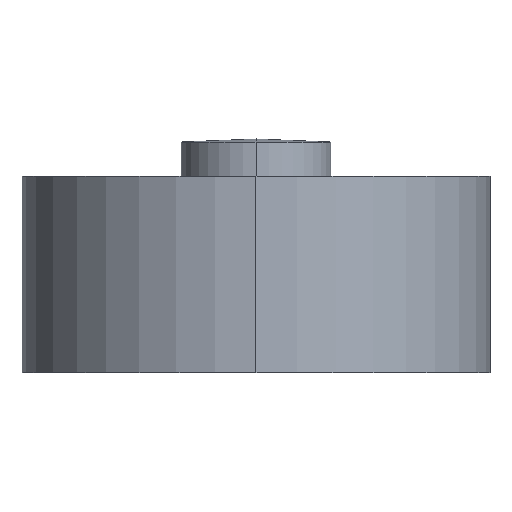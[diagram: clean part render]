
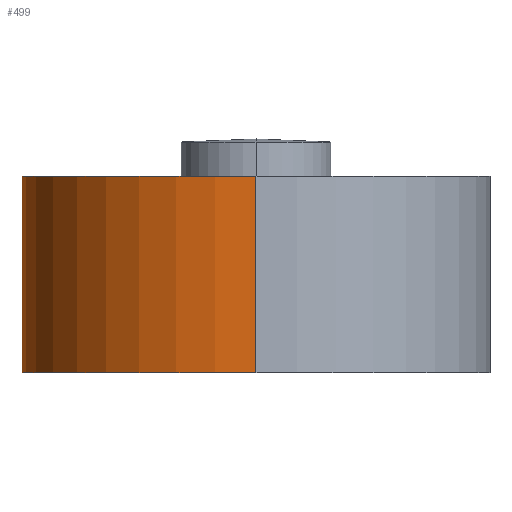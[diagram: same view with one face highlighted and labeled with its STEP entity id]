
A CAD part, left-side view. The second image highlights one B-rep face of the part: STEP entity #499.
In plain terms, the highlighted cylindrical face has radius 25 mm (diameter 50 mm), a partial arc.
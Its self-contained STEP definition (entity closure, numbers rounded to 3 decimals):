
#21 = CARTESIAN_POINT ( 'NONE',  ( -25., 0., -4. ) ) ;
#51 = LINE ( 'NONE', #510, #694 ) ;
#72 = AXIS2_PLACEMENT_3D ( 'NONE', #637, #718, #877 ) ;
#75 = EDGE_CURVE ( 'NONE', #487, #257, #849, .T. ) ;
#90 = CARTESIAN_POINT ( 'NONE',  ( 25., 0., -25. ) ) ;
#110 = CARTESIAN_POINT ( 'NONE',  ( 0., 0., -25. ) ) ;
#120 = AXIS2_PLACEMENT_3D ( 'NONE', #140, #682, #313 ) ;
#140 = CARTESIAN_POINT ( 'NONE',  ( 0., 0., -4. ) ) ;
#176 = ORIENTED_EDGE ( 'NONE', *, *, #621, .T. ) ;
#241 = VERTEX_POINT ( 'NONE', #589 ) ;
#251 = EDGE_CURVE ( 'NONE', #487, #241, #51, .T. ) ;
#257 = VERTEX_POINT ( 'NONE', #973 ) ;
#272 = DIRECTION ( 'NONE',  ( 0., 0., 1. ) ) ;
#291 = CARTESIAN_POINT ( 'NONE',  ( -25., 0., -25. ) ) ;
#300 = CIRCLE ( 'NONE', #120, 25. ) ;
#313 = DIRECTION ( 'NONE',  ( 1., 0., 0. ) ) ;
#318 = DIRECTION ( 'NONE',  ( 1., 0., 0. ) ) ;
#360 = VECTOR ( 'NONE', #272, 1000. ) ;
#478 = VERTEX_POINT ( 'NONE', #21 ) ;
#487 = VERTEX_POINT ( 'NONE', #90 ) ;
#499 = ADVANCED_FACE ( 'NONE', ( #930 ), #563, .T. ) ;
#510 = CARTESIAN_POINT ( 'NONE',  ( 25., 0., -25. ) ) ;
#552 = DIRECTION ( 'NONE',  ( 0., 0., 1. ) ) ;
#563 = CYLINDRICAL_SURFACE ( 'NONE', #674, 25. ) ;
#587 = EDGE_LOOP ( 'NONE', ( #811, #176, #630, #635 ) ) ;
#589 = CARTESIAN_POINT ( 'NONE',  ( 25., 0., -4. ) ) ;
#621 = EDGE_CURVE ( 'NONE', #257, #478, #659, .T. ) ;
#630 = ORIENTED_EDGE ( 'NONE', *, *, #777, .F. ) ;
#635 = ORIENTED_EDGE ( 'NONE', *, *, #251, .F. ) ;
#637 = CARTESIAN_POINT ( 'NONE',  ( 0., 0., -25. ) ) ;
#659 = LINE ( 'NONE', #291, #360 ) ;
#665 = DIRECTION ( 'NONE',  ( 0., 0., 1. ) ) ;
#674 = AXIS2_PLACEMENT_3D ( 'NONE', #110, #552, #318 ) ;
#682 = DIRECTION ( 'NONE',  ( 0., 0., 1. ) ) ;
#694 = VECTOR ( 'NONE', #665, 1000. ) ;
#718 = DIRECTION ( 'NONE',  ( 0., 0., 1. ) ) ;
#777 = EDGE_CURVE ( 'NONE', #241, #478, #300, .T. ) ;
#811 = ORIENTED_EDGE ( 'NONE', *, *, #75, .T. ) ;
#849 = CIRCLE ( 'NONE', #72, 25. ) ;
#877 = DIRECTION ( 'NONE',  ( 1., 0., 0. ) ) ;
#930 = FACE_OUTER_BOUND ( 'NONE', #587, .T. ) ;
#973 = CARTESIAN_POINT ( 'NONE',  ( -25., 0., -25. ) ) ;
